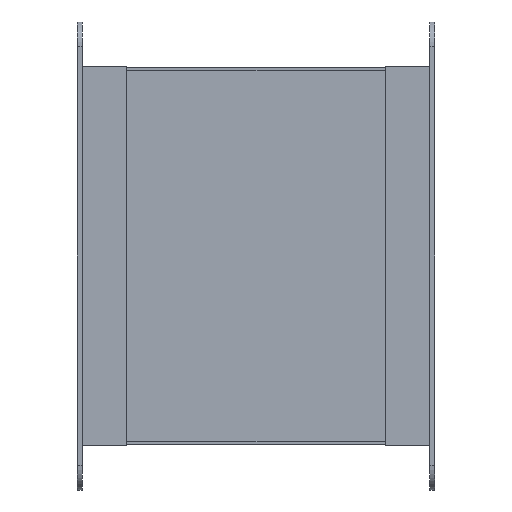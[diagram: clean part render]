
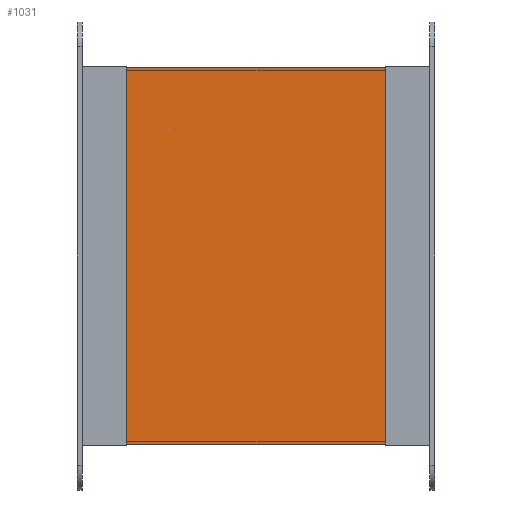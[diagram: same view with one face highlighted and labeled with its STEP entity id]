
A CAD part, left-side view. The second image highlights one B-rep face of the part: STEP entity #1031.
In plain terms, the highlighted planar face has unit normal (-1, 0, 0).
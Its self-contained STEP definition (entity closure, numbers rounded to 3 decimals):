
#39=PLANE('',#1127);
#113=LINE('',#1611,#217);
#122=LINE('',#1629,#226);
#123=LINE('',#1631,#227);
#124=LINE('',#1632,#228);
#217=VECTOR('',#1325,10.);
#226=VECTOR('',#1342,10.);
#227=VECTOR('',#1343,10.);
#228=VECTOR('',#1344,10.);
#335=FACE_OUTER_BOUND('',#409,.T.);
#409=EDGE_LOOP('',(#847,#848,#849,#850));
#542=VERTEX_POINT('',#1605);
#544=VERTEX_POINT('',#1609);
#549=VERTEX_POINT('',#1628);
#550=VERTEX_POINT('',#1630);
#657=EDGE_CURVE('',#544,#542,#113,.T.);
#666=EDGE_CURVE('',#542,#549,#122,.T.);
#667=EDGE_CURVE('',#550,#544,#123,.T.);
#668=EDGE_CURVE('',#549,#550,#124,.T.);
#847=ORIENTED_EDGE('',*,*,#666,.F.);
#848=ORIENTED_EDGE('',*,*,#657,.F.);
#849=ORIENTED_EDGE('',*,*,#667,.F.);
#850=ORIENTED_EDGE('',*,*,#668,.F.);
#1031=ADVANCED_FACE('',(#335),#39,.T.);
#1127=AXIS2_PLACEMENT_3D('',#1627,#1340,#1341);
#1325=DIRECTION('',(0.,-1.,0.));
#1340=DIRECTION('center_axis',(-1.,0.,0.));
#1341=DIRECTION('ref_axis',(0.,0.,1.));
#1342=DIRECTION('',(0.,0.,-1.));
#1343=DIRECTION('',(0.,0.,1.));
#1344=DIRECTION('',(0.,1.,0.));
#1605=CARTESIAN_POINT('',(-151.5,-52.5,76.5));
#1609=CARTESIAN_POINT('',(-151.5,52.5,76.5));
#1611=CARTESIAN_POINT('',(-151.5,0.,76.5));
#1627=CARTESIAN_POINT('Origin',(-151.5,0.,-76.5));
#1628=CARTESIAN_POINT('',(-151.5,-52.5,-76.5));
#1629=CARTESIAN_POINT('',(-151.5,-52.5,9.25));
#1630=CARTESIAN_POINT('',(-151.5,52.5,-76.5));
#1631=CARTESIAN_POINT('',(-151.5,52.5,-85.75));
#1632=CARTESIAN_POINT('',(-151.5,0.,-76.5));
